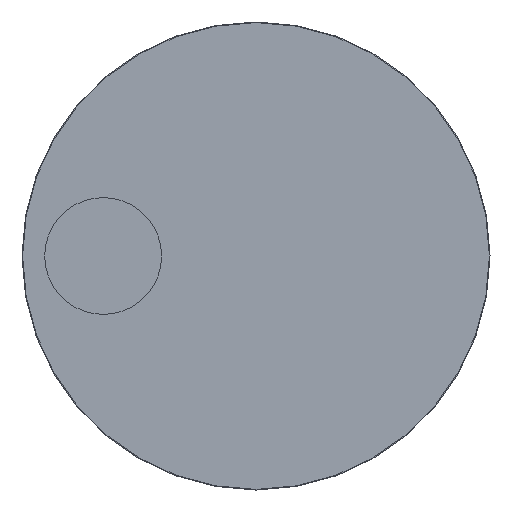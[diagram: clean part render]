
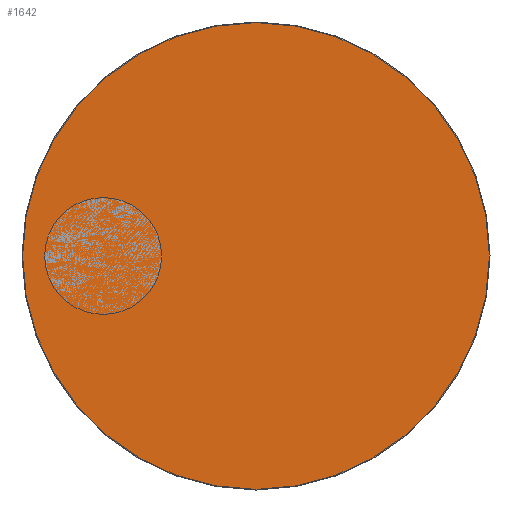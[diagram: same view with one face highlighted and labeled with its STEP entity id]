
A CAD part, front view. The second image highlights one B-rep face of the part: STEP entity #1642.
In plain terms, the highlighted planar face has unit normal (0, -1, 0).
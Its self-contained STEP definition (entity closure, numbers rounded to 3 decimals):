
#32 = ORIENTED_EDGE ( 'NONE', *, *, #725, .T. ) ;
#93 = CIRCLE ( 'NONE', #300, 37.4 ) ;
#129 = DIRECTION ( 'NONE',  ( 0., -1., 0. ) ) ;
#152 = DIRECTION ( 'NONE',  ( 0., -1., 0. ) ) ;
#251 = VERTEX_POINT ( 'NONE', #924 ) ;
#278 = DIRECTION ( 'NONE',  ( 1., 0., 0. ) ) ;
#300 = AXIS2_PLACEMENT_3D ( 'NONE', #1406, #129, #1544 ) ;
#340 = CARTESIAN_POINT ( 'NONE',  ( 29.557, -20.517, 15.869 ) ) ;
#497 = PLANE ( 'NONE',  #821 ) ;
#623 = DIRECTION ( 'NONE',  ( 0., -1., 0. ) ) ;
#644 = DIRECTION ( 'NONE',  ( 1., 0., 0. ) ) ;
#725 = EDGE_CURVE ( 'NONE', #251, #975, #93, .T. ) ;
#821 = AXIS2_PLACEMENT_3D ( 'NONE', #1027, #623, #644 ) ;
#827 = EDGE_LOOP ( 'NONE', ( #1128, #32 ) ) ;
#924 = CARTESIAN_POINT ( 'NONE',  ( -45.243, -20.517, 15.869 ) ) ;
#975 = VERTEX_POINT ( 'NONE', #340 ) ;
#1027 = CARTESIAN_POINT ( 'NONE',  ( -7.843, -20.517, 15.869 ) ) ;
#1059 = CIRCLE ( 'NONE', #1555, 37.4 ) ;
#1128 = ORIENTED_EDGE ( 'NONE', *, *, #1330, .T. ) ;
#1330 = EDGE_CURVE ( 'NONE', #975, #251, #1059, .T. ) ;
#1334 = FACE_OUTER_BOUND ( 'NONE', #827, .T. ) ;
#1406 = CARTESIAN_POINT ( 'NONE',  ( -7.843, -20.517, 15.869 ) ) ;
#1422 = CARTESIAN_POINT ( 'NONE',  ( -7.843, -20.517, 15.869 ) ) ;
#1544 = DIRECTION ( 'NONE',  ( 1., 0., 0. ) ) ;
#1555 = AXIS2_PLACEMENT_3D ( 'NONE', #1422, #152, #278 ) ;
#1642 = ADVANCED_FACE ( 'NONE', ( #1334 ), #497, .T. ) ;
